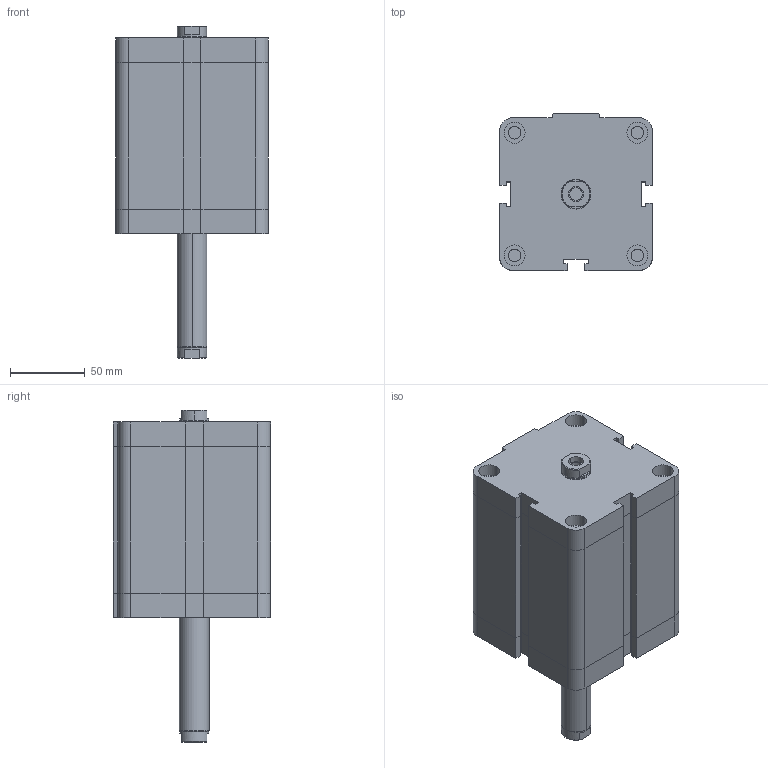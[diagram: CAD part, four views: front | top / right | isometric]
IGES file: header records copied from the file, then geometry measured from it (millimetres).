
Global section: file name: No Iges File Name specified; native system: Autodesk Inventor 2009; preprocessor: AutoDesk Inventor Iges Exporter R2009; author: maffial1; date: 20090420.200624; units: millimetre
Bounding box: 102 x 105 x 222 mm (x, y, z)
Volume: 1334912.2 mm3; surface area: 111156.7 mm2
Topology: 2 solids, 2 shells, 202 faces, 450 edges, 274 vertices
Faces by surface type: plane 114, bspline 42, revolution 20, cylinder 18, cone 8
